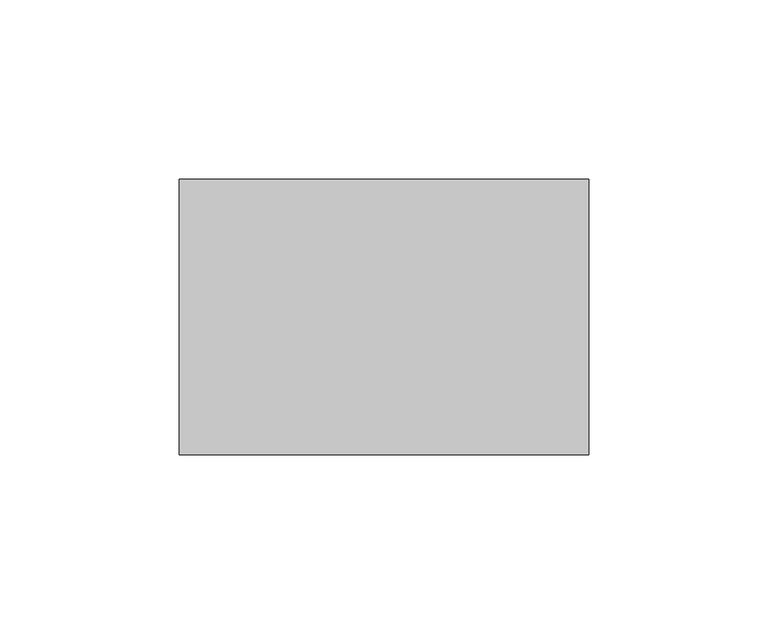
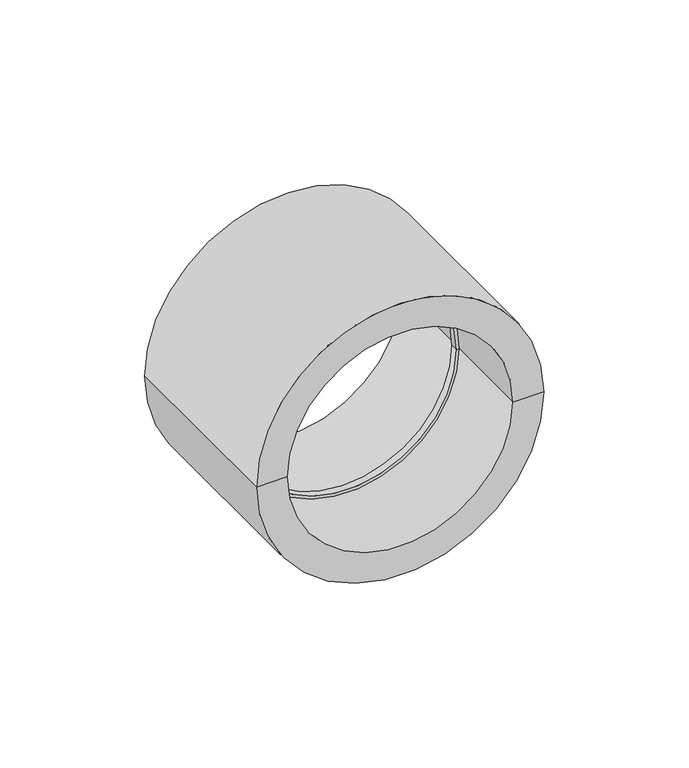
"""IFC4 building model written with IfcOpenShell, lengths in millimetres: pipe fitting geometry, NIRON RED termofusion manguito : Estándar."""

from ifc_helpers import new_model, si_unit, frame, origin, place, context, project, spatial, polyline, circle_curve, source, transform, mapped, element, save
from ifc_brep_helpers import plane_surface, cylinder_surface, revolved_surface, advanced_brep


def pipe_fitting_93ee1eeb(model_context):
    return source(origin(), model_context, "Body", "AdvancedBrep", [
        advanced_brep(
        [(57.25, 77.0, 0.0), (-57.25, 77.0, 0.0), (-45.0, 77.0, 0.0), (45.0, 77.0, 0.0), (57.25, 0.0, 0.0), (-57.25, 0.0, 0.0), (45.0, 0.0, 0.0), (-45.0, 0.0, 0.0), (45.0, 37.0, 0.0), (-45.0, 37.0, 0.0), (43.75, 37.0, 0.0), (-43.75, 37.0, 0.0), (43.75, 40.0, 0.0), (-43.75, 40.0, 0.0), (45.0, 40.0, 0.0), (-45.0, 40.0, 0.0)],
        [
            (0, 1, circle_curve(frame((0.0, 77.0, 0.0), z_axis=(0.0, 1.0, 0.0), x_axis=(-1.0, 0.0, 0.0)), 57.25)),
            (1, 2),
            (2, 3, circle_curve(frame((0.0, 77.0, 0.0), z_axis=(0.0, -1.0, 0.0), x_axis=(-1.0, 0.0, 0.0)), 45.0)),
            (3, 0),
            (1, 0, circle_curve(frame((0.0, 77.0, 0.0), z_axis=(0.0, 1.0, 0.0), x_axis=(-1.0, 0.0, 0.0)), 57.25)),
            (3, 2, circle_curve(frame((0.0, 77.0, 0.0), z_axis=(0.0, -1.0, 0.0), x_axis=(-1.0, 0.0, 0.0)), 45.0)),
            (4, 5, circle_curve(frame((0.0, 0.0, 0.0), z_axis=(0.0, 1.0, 0.0), x_axis=(-1.0, 0.0, 0.0)), 57.25)),
            (5, 1),
            (0, 4),
            (5, 4, circle_curve(frame((0.0, 0.0, 0.0), z_axis=(0.0, 1.0, 0.0), x_axis=(-1.0, 0.0, 0.0)), 57.25)),
            (6, 7, circle_curve(frame((0.0, 0.0, 0.0), z_axis=(0.0, 1.0, 0.0), x_axis=(-1.0, 0.0, 0.0)), 45.0)),
            (7, 5),
            (4, 6),
            (7, 6, circle_curve(frame((0.0, 0.0, 0.0), z_axis=(0.0, 1.0, 0.0), x_axis=(-1.0, 0.0, 0.0)), 45.0)),
            (8, 9, circle_curve(frame((0.0, 37.0, 0.0), z_axis=(0.0, 1.0, 0.0), x_axis=(-1.0, 0.0, 0.0)), 45.0)),
            (9, 7),
            (6, 8),
            (9, 8, circle_curve(frame((0.0, 37.0, 0.0), z_axis=(0.0, 1.0, 0.0), x_axis=(-1.0, 0.0, 0.0)), 45.0)),
            (10, 11, circle_curve(frame((0.0, 37.0, 0.0), z_axis=(0.0, 1.0, 0.0), x_axis=(-1.0, 0.0, 0.0)), 43.75)),
            (11, 9),
            (8, 10),
            (11, 10, circle_curve(frame((0.0, 37.0, 0.0), z_axis=(0.0, 1.0, 0.0), x_axis=(-1.0, 0.0, 0.0)), 43.75)),
            (12, 13, circle_curve(frame((0.0, 40.0, 0.0), z_axis=(0.0, 1.0, 0.0), x_axis=(-1.0, 0.0, 0.0)), 43.75)),
            (13, 11),
            (10, 12),
            (13, 12, circle_curve(frame((0.0, 40.0, 0.0), z_axis=(0.0, 1.0, 0.0), x_axis=(-1.0, 0.0, 0.0)), 43.75)),
            (14, 15, circle_curve(frame((0.0, 40.0, 0.0), z_axis=(0.0, 1.0, 0.0), x_axis=(-1.0, 0.0, 0.0)), 45.0)),
            (15, 13),
            (12, 14),
            (15, 14, circle_curve(frame((0.0, 40.0, 0.0), z_axis=(0.0, 1.0, 0.0), x_axis=(-1.0, 0.0, 0.0)), 45.0)),
            (2, 15),
            (14, 3),
        ],
        [
            plane_surface(frame((0.0, 77.0, 0.0), z_axis=(0.0, 1.0, 0.0), x_axis=(-1.0, 0.0, 0.0))),
            cylinder_surface(frame((0.0, 102.0, 0.0), z_axis=(0.0, -1.0, 0.0), x_axis=(-1.0, 0.0, 0.0)), 57.25),
            plane_surface(frame((0.0, 0.0, 0.0), z_axis=(0.0, -1.0, 0.0), x_axis=(-1.0, 0.0, 0.0))),
            revolved_surface(polyline([(-45.0, 0.0, 0.0), (-45.0, 37.0, 0.0)]), (0.0, 102.0, 0.0), (0.0, -1.0, 0.0)),
            plane_surface(frame((0.0, 37.0, 0.0), z_axis=(0.0, -1.0, 0.0), x_axis=(-1.0, 0.0, 0.0))),
            revolved_surface(polyline([(-43.75, 37.0, 0.0), (-43.75, 40.0, 0.0)]), (0.0, 102.0, 0.0), (0.0, -1.0, 0.0)),
            plane_surface(frame((0.0, 40.0, 0.0), z_axis=(0.0, 1.0, 0.0), x_axis=(-1.0, 0.0, 0.0))),
            revolved_surface(polyline([(-45.0, 40.0, 0.0), (-45.0, 77.0, 0.0)]), (0.0, 102.0, 0.0), (0.0, -1.0, 0.0)),
        ],
        [
            (0, [[1, 2, 3, 4]]),
            (0, [[5, -4, 6, -2]]),
            (1, [[7, 8, -1, 9]]),
            (1, [[10, -9, -5, -8]]),
            (2, [[11, 12, -7, 13]]),
            (2, [[14, -13, -10, -12]]),
            (3, [[15, 16, -11, 17]]),
            (3, [[18, -17, -14, -16]]),
            (4, [[19, 20, -15, 21]]),
            (4, [[22, -21, -18, -20]]),
            (5, [[23, 24, -19, 25]]),
            (5, [[26, -25, -22, -24]]),
            (6, [[27, 28, -23, 29]]),
            (6, [[30, -29, -26, -28]]),
            (7, [[-3, 31, -27, 32]]),
            (7, [[-6, -32, -30, -31]]),
        ],
    ),
    ])


if __name__ == "__main__":
    model = new_model("IFC4")
    model_context = context("Model", 3, world=origin())
    ifc_project = project(units=[si_unit("LENGTHUNIT", "METRE", prefix="MILLI")], contexts=[model_context])
    site = spatial("IfcSite", under=ifc_project)
    building = spatial("IfcBuilding", under=site)
    placement = place(None, origin())
    pipe_fitting_shape = pipe_fitting_93ee1eeb(model_context)
    element("IfcPipeFitting", 1, ObjectType="NIRON RED termofusion manguito : Estándar", at=placement, inside=building, context=model_context, shape_type="MappedRepresentation", body=[
        mapped(pipe_fitting_shape, transform((0.0, 0.0, 0.0), x_axis=(1.0, 0.0, 0.0), y_axis=(0.0, 1.0, 0.0), z_axis=(0.0, 0.0, 1.0))),
    ])
    save(model, "model.ifc")
